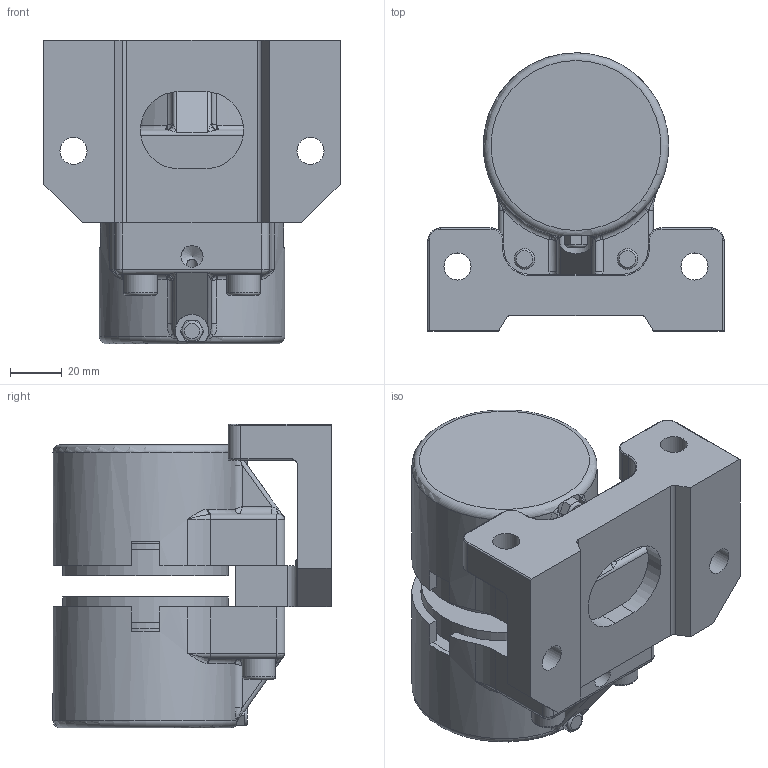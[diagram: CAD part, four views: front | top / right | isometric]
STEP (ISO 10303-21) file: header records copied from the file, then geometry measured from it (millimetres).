
FILE_DESCRIPTION(/* description */ ('','CAx-IF Rec.Pracs.---Representation and Presentation of Product Manufacturing Information (PMI)---4.0---2014-10-13'),/* implementation_level */ '2;1');
FILE_NAME(/* name */ 'X:\INVENTOR\DISEGNI\19_Pinze\STEP x Sito\PNEUM-NEGATIVE\19_36_M065_02 PPV-N065_08.stp',/* time_stamp */ '2018-02-21T14:51:12+01:00',/* author */ ('stefano'),/* organization */ (''),/* preprocessor_version */ 'ST-DEVELOPER v17',/* originating_system */ 'Autodesk Inventor 2018',/* authorisation */ '');
FILE_SCHEMA (('AP242_MANAGED_MODEL_BASED_3D_ENGINEERING_MIM_LF { 1 0 10303 442 1 1 4 }'));
Length unit declared in the file: millimetre
Products named in the file (1): 19_36_M065_02 PPV-N065_08_Substitute_2
Bounding box: 115 x 107.99 x 118 mm (x, y, z)
Volume: 498191.1 mm3; surface area: 133828.2 mm2
Topology: 2 solids, 2 shells, 410 faces, 1095 edges, 709 vertices
Faces by surface type: plane 177, cylinder 143, bspline 36, torus 33, cone 21
Full cylindrical faces by diameter (mm): 3 x6, 4 x3, 4.917 x2, 5 x3, 6 x2, 6.1 x2, 7.75 x2, 8 x2, 8.566 x1, 10 x2, 10.5 x4, 12 x2, 13 x2, 17 x2, 33.25 x2, 33.5 x4, 40 x2, 45 x2, 55 x3, 56.806 x1, 59 x2, 62.806 x1, 64.5 x2, 64.9 x2, 65 x5, 68 x2
Entity records: 14542 total; most frequent: CARTESIAN_POINT 3749, DIRECTION 2253, ORIENTED_EDGE 2148, EDGE_CURVE 1074, AXIS2_PLACEMENT_3D 906, VERTEX_POINT 709, CIRCLE 503, EDGE_LOOP 471
